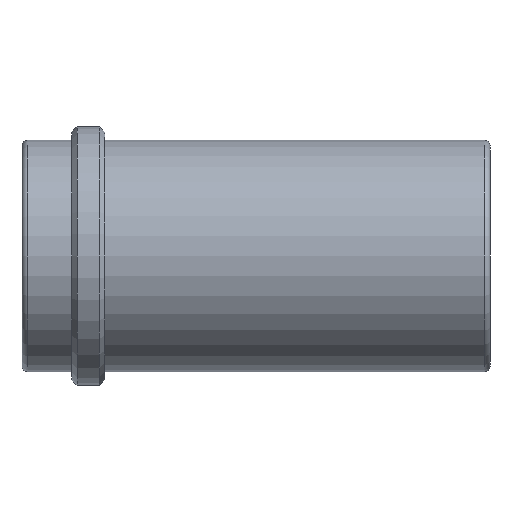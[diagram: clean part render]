
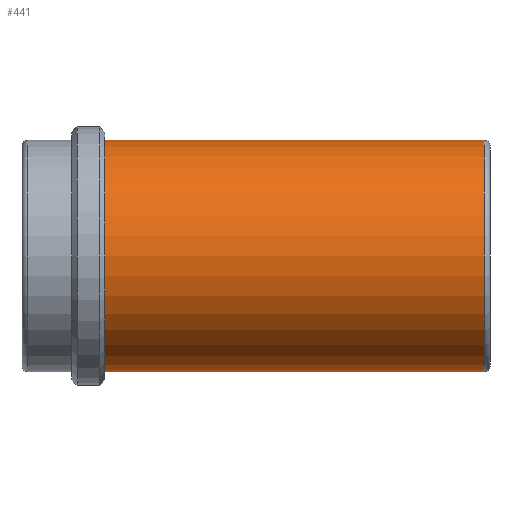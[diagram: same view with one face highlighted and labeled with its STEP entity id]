
A CAD part, front view. The second image highlights one B-rep face of the part: STEP entity #441.
In plain terms, the highlighted cylindrical face has radius 21 mm (diameter 42 mm), a partial arc.
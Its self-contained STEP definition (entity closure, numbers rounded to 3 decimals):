
#12 = CARTESIAN_POINT ( 'NONE',  ( 0., 0., 21. ) ) ;
#47 = AXIS2_PLACEMENT_3D ( 'NONE', #306, #191, #123 ) ;
#81 = CARTESIAN_POINT ( 'NONE',  ( 84., 0., 0. ) ) ;
#84 = CIRCLE ( 'NONE', #417, 21. ) ;
#120 = CYLINDRICAL_SURFACE ( 'NONE', #47, 21. ) ;
#123 = DIRECTION ( 'NONE',  ( 0., 0., 1. ) ) ;
#146 = LINE ( 'NONE', #434, #189 ) ;
#147 = VERTEX_POINT ( 'NONE', #304 ) ;
#172 = DIRECTION ( 'NONE',  ( -1., 0., 0. ) ) ;
#173 = VERTEX_POINT ( 'NONE', #315 ) ;
#181 = CIRCLE ( 'NONE', #411, 21. ) ;
#189 = VECTOR ( 'NONE', #280, 1000. ) ;
#191 = DIRECTION ( 'NONE',  ( -1., 0., 0. ) ) ;
#208 = CARTESIAN_POINT ( 'NONE',  ( 15., 0., -21. ) ) ;
#209 = EDGE_LOOP ( 'NONE', ( #357, #311, #391, #274 ) ) ;
#210 = EDGE_CURVE ( 'NONE', #217, #173, #84, .T. ) ;
#217 = VERTEX_POINT ( 'NONE', #208 ) ;
#220 = EDGE_CURVE ( 'NONE', #147, #293, #181, .T. ) ;
#226 = LINE ( 'NONE', #12, #294 ) ;
#274 = ORIENTED_EDGE ( 'NONE', *, *, #210, .F. ) ;
#280 = DIRECTION ( 'NONE',  ( -1., 0., 0. ) ) ;
#283 = DIRECTION ( 'NONE',  ( 0., 0., 1. ) ) ;
#291 = CARTESIAN_POINT ( 'NONE',  ( 15., 0., 0. ) ) ;
#293 = VERTEX_POINT ( 'NONE', #535 ) ;
#294 = VECTOR ( 'NONE', #419, 1000. ) ;
#304 = CARTESIAN_POINT ( 'NONE',  ( 84., 0., -21. ) ) ;
#306 = CARTESIAN_POINT ( 'NONE',  ( 0., 0., 0. ) ) ;
#311 = ORIENTED_EDGE ( 'NONE', *, *, #220, .T. ) ;
#315 = CARTESIAN_POINT ( 'NONE',  ( 15., 0., 21. ) ) ;
#357 = ORIENTED_EDGE ( 'NONE', *, *, #571, .F. ) ;
#391 = ORIENTED_EDGE ( 'NONE', *, *, #544, .T. ) ;
#396 = DIRECTION ( 'NONE',  ( 0., 0., 1. ) ) ;
#411 = AXIS2_PLACEMENT_3D ( 'NONE', #81, #495, #396 ) ;
#415 = FACE_OUTER_BOUND ( 'NONE', #209, .T. ) ;
#417 = AXIS2_PLACEMENT_3D ( 'NONE', #291, #172, #283 ) ;
#419 = DIRECTION ( 'NONE',  ( -1., 0., 0. ) ) ;
#434 = CARTESIAN_POINT ( 'NONE',  ( 0., 0., -21. ) ) ;
#441 = ADVANCED_FACE ( 'NONE', ( #415 ), #120, .T. ) ;
#495 = DIRECTION ( 'NONE',  ( -1., 0., 0. ) ) ;
#535 = CARTESIAN_POINT ( 'NONE',  ( 84., 0., 21. ) ) ;
#544 = EDGE_CURVE ( 'NONE', #293, #173, #226, .T. ) ;
#571 = EDGE_CURVE ( 'NONE', #147, #217, #146, .T. ) ;
